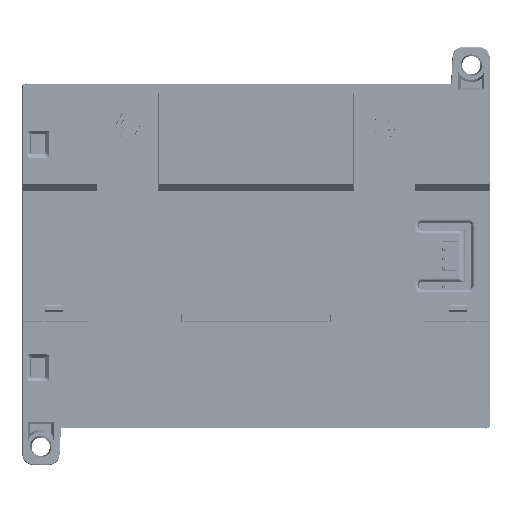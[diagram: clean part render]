
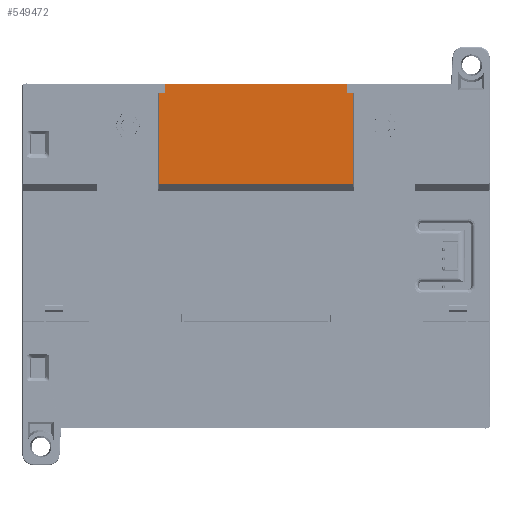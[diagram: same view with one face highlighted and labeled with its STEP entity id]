
A CAD part, front view. The second image highlights one B-rep face of the part: STEP entity #549472.
In plain terms, the highlighted planar face has unit normal (0, -1, 0).
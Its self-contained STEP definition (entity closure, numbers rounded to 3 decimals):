
#22860 = LINE ( 'NONE', #197351, #322637 ) ;
#28602 = LINE ( 'NONE', #334687, #181797 ) ;
#44453 = EDGE_CURVE ( 'NONE', #530183, #223067, #28602, .T. ) ;
#48198 = ORIENTED_EDGE ( 'NONE', *, *, #69517, .F. ) ;
#54173 = EDGE_CURVE ( 'NONE', #92095, #193229, #504712, .T. ) ;
#58967 = EDGE_LOOP ( 'NONE', ( #48198, #557617, #386787, #237056, #426996, #473212, #543742, #81566 ) ) ;
#69517 = EDGE_CURVE ( 'NONE', #181827, #92095, #198851, .T. ) ;
#74931 = PLANE ( 'NONE',  #296639 ) ;
#81566 = ORIENTED_EDGE ( 'NONE', *, *, #54173, .F. ) ;
#92095 = VERTEX_POINT ( 'NONE', #421740 ) ;
#93153 = EDGE_CURVE ( 'NONE', #223067, #181827, #22860, .T. ) ;
#101359 = VECTOR ( 'NONE', #465885, 1000. ) ;
#107072 = VERTEX_POINT ( 'NONE', #531719 ) ;
#112831 = CARTESIAN_POINT ( 'NONE',  ( -193.75, -34.9, -75.059 ) ) ;
#116765 = LINE ( 'NONE', #291284, #101359 ) ;
#124618 = EDGE_CURVE ( 'NONE', #239224, #107072, #138342, .T. ) ;
#138342 = LINE ( 'NONE', #312850, #358486 ) ;
#151247 = CARTESIAN_POINT ( 'NONE',  ( -122.966, -34.9, -99.65 ) ) ;
#174047 = DIRECTION ( 'NONE',  ( 0., 1., 0. ) ) ;
#174632 = LINE ( 'NONE', #349244, #293065 ) ;
#181797 = VECTOR ( 'NONE', #509105, 1000. ) ;
#181827 = VERTEX_POINT ( 'NONE', #498978 ) ;
#191199 = EDGE_CURVE ( 'NONE', #330211, #530183, #386764, .T. ) ;
#193229 = VERTEX_POINT ( 'NONE', #530536 ) ;
#197351 = CARTESIAN_POINT ( 'NONE',  ( 0., -34.9, -72.65 ) ) ;
#198851 = LINE ( 'NONE', #373459, #564972 ) ;
#223067 = VERTEX_POINT ( 'NONE', #230205 ) ;
#230205 = CARTESIAN_POINT ( 'NONE',  ( -174.234, -34.9, -72.65 ) ) ;
#237056 = ORIENTED_EDGE ( 'NONE', *, *, #191199, .F. ) ;
#239224 = VERTEX_POINT ( 'NONE', #151247 ) ;
#273555 = EDGE_CURVE ( 'NONE', #193229, #239224, #174632, .T. ) ;
#287329 = DIRECTION ( 'NONE',  ( 1., 0., 0. ) ) ;
#291284 = CARTESIAN_POINT ( 'NONE',  ( -176.034, -34.9, -101.45 ) ) ;
#293065 = VECTOR ( 'NONE', #523681, 1000. ) ;
#296639 = AXIS2_PLACEMENT_3D ( 'NONE', #565916, #174047, #348677 ) ;
#312850 = CARTESIAN_POINT ( 'NONE',  ( 0., -34.9, -99.65 ) ) ;
#322637 = VECTOR ( 'NONE', #371941, 1000. ) ;
#330211 = VERTEX_POINT ( 'NONE', #503346 ) ;
#334687 = CARTESIAN_POINT ( 'NONE',  ( -174.234, -34.9, -88.281 ) ) ;
#348677 = DIRECTION ( 'NONE',  ( 0., 0., 1. ) ) ;
#349244 = CARTESIAN_POINT ( 'NONE',  ( -122.966, -34.9, -101.45 ) ) ;
#358486 = VECTOR ( 'NONE', #487300, 1000. ) ;
#371941 = DIRECTION ( 'NONE',  ( 1., 0., 0. ) ) ;
#373459 = CARTESIAN_POINT ( 'NONE',  ( -124.766, -34.9, -88.281 ) ) ;
#386764 = LINE ( 'NONE', #561051, #443772 ) ;
#386787 = ORIENTED_EDGE ( 'NONE', *, *, #44453, .F. ) ;
#402687 = CARTESIAN_POINT ( 'NONE',  ( -174.234, -34.9, -75.059 ) ) ;
#421740 = CARTESIAN_POINT ( 'NONE',  ( -124.766, -34.9, -75.059 ) ) ;
#426996 = ORIENTED_EDGE ( 'NONE', *, *, #563337, .F. ) ;
#443772 = VECTOR ( 'NONE', #474071, 1000. ) ;
#465885 = DIRECTION ( 'NONE',  ( 0., 0., 1. ) ) ;
#466892 = FACE_OUTER_BOUND ( 'NONE', #58967, .T. ) ;
#473212 = ORIENTED_EDGE ( 'NONE', *, *, #124618, .F. ) ;
#474071 = DIRECTION ( 'NONE',  ( 1., 0., 0. ) ) ;
#487300 = DIRECTION ( 'NONE',  ( -1., 0., 0. ) ) ;
#498978 = CARTESIAN_POINT ( 'NONE',  ( -124.766, -34.9, -72.65 ) ) ;
#503346 = CARTESIAN_POINT ( 'NONE',  ( -176.034, -34.9, -75.059 ) ) ;
#504712 = LINE ( 'NONE', #112831, #508591 ) ;
#508591 = VECTOR ( 'NONE', #287329, 1000. ) ;
#509105 = DIRECTION ( 'NONE',  ( 0., 0., 1. ) ) ;
#523681 = DIRECTION ( 'NONE',  ( 0., 0., -1. ) ) ;
#530183 = VERTEX_POINT ( 'NONE', #402687 ) ;
#530536 = CARTESIAN_POINT ( 'NONE',  ( -122.966, -34.9, -75.059 ) ) ;
#531719 = CARTESIAN_POINT ( 'NONE',  ( -176.034, -34.9, -99.65 ) ) ;
#543742 = ORIENTED_EDGE ( 'NONE', *, *, #273555, .F. ) ;
#547728 = DIRECTION ( 'NONE',  ( 0., 0., -1. ) ) ;
#549472 = ADVANCED_FACE ( 'NONE', ( #466892 ), #74931, .F. ) ;
#557617 = ORIENTED_EDGE ( 'NONE', *, *, #93153, .F. ) ;
#561051 = CARTESIAN_POINT ( 'NONE',  ( -193.75, -34.9, -75.059 ) ) ;
#563337 = EDGE_CURVE ( 'NONE', #107072, #330211, #116765, .T. ) ;
#564972 = VECTOR ( 'NONE', #547728, 1000. ) ;
#565916 = CARTESIAN_POINT ( 'NONE',  ( 0., -34.9, -120. ) ) ;
